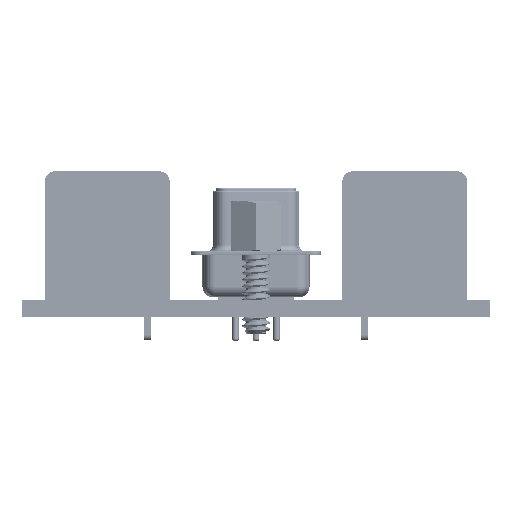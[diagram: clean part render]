
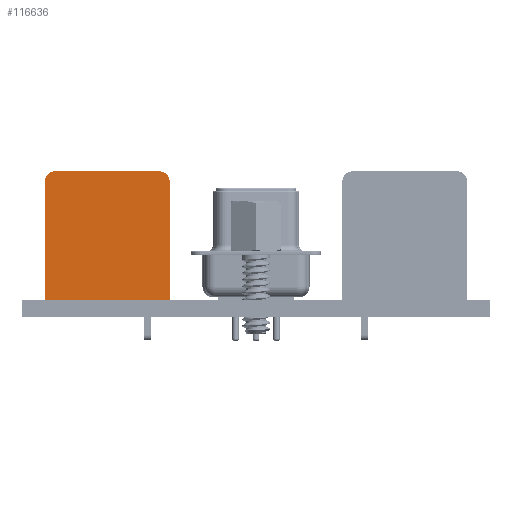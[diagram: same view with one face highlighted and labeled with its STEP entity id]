
A CAD part, left-side view. The second image highlights one B-rep face of the part: STEP entity #116636.
In plain terms, the highlighted planar face has unit normal (-1, 0, 0) as drawn and (0, 0, -1) by its records, which use the part's own axes.
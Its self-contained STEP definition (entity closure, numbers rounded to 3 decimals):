
#116636 = ADVANCED_FACE('',(#116637),#116689,.T.);
#116637 = FACE_BOUND('',#116638,.T.);
#116638 = EDGE_LOOP('',(#116639,#116649,#116657,#116665,#116674,#116682)
  );
#116639 = ORIENTED_EDGE('',*,*,#116640,.T.);
#116640 = EDGE_CURVE('',#116641,#116643,#116645,.T.);
#116641 = VERTEX_POINT('',#116642);
#116642 = CARTESIAN_POINT('',(6.,11.4,-0.463));
#116643 = VERTEX_POINT('',#116644);
#116644 = CARTESIAN_POINT('',(6.,0.,-0.463));
#116645 = LINE('',#116646,#116647);
#116646 = CARTESIAN_POINT('',(6.,11.4,-0.463));
#116647 = VECTOR('',#116648,1.);
#116648 = DIRECTION('',(-0.,-1.,-0.));
#116649 = ORIENTED_EDGE('',*,*,#116650,.T.);
#116650 = EDGE_CURVE('',#116643,#116651,#116653,.T.);
#116651 = VERTEX_POINT('',#116652);
#116652 = CARTESIAN_POINT('',(-6.,0.,-0.463));
#116653 = LINE('',#116654,#116655);
#116654 = CARTESIAN_POINT('',(-5.,0.,-0.463));
#116655 = VECTOR('',#116656,1.);
#116656 = DIRECTION('',(-1.,0.,-0.));
#116657 = ORIENTED_EDGE('',*,*,#116658,.T.);
#116658 = EDGE_CURVE('',#116651,#116659,#116661,.T.);
#116659 = VERTEX_POINT('',#116660);
#116660 = CARTESIAN_POINT('',(-6.,11.4,-0.463));
#116661 = LINE('',#116662,#116663);
#116662 = CARTESIAN_POINT('',(-6.,11.4,-0.463));
#116663 = VECTOR('',#116664,1.);
#116664 = DIRECTION('',(0.,1.,0.));
#116665 = ORIENTED_EDGE('',*,*,#116666,.T.);
#116666 = EDGE_CURVE('',#116659,#116667,#116669,.T.);
#116667 = VERTEX_POINT('',#116668);
#116668 = CARTESIAN_POINT('',(-5.,12.4,-0.463));
#116669 = CIRCLE('',#116670,1.);
#116670 = AXIS2_PLACEMENT_3D('',#116671,#116672,#116673);
#116671 = CARTESIAN_POINT('',(-5.,11.4,-0.463));
#116672 = DIRECTION('',(-0.,0.,-1.));
#116673 = DIRECTION('',(-1.,0.,0.));
#116674 = ORIENTED_EDGE('',*,*,#116675,.T.);
#116675 = EDGE_CURVE('',#116667,#116676,#116678,.T.);
#116676 = VERTEX_POINT('',#116677);
#116677 = CARTESIAN_POINT('',(5.,12.4,-0.463));
#116678 = LINE('',#116679,#116680);
#116679 = CARTESIAN_POINT('',(-5.,12.4,-0.463));
#116680 = VECTOR('',#116681,1.);
#116681 = DIRECTION('',(1.,-0.,0.));
#116682 = ORIENTED_EDGE('',*,*,#116683,.T.);
#116683 = EDGE_CURVE('',#116676,#116641,#116684,.T.);
#116684 = CIRCLE('',#116685,1.);
#116685 = AXIS2_PLACEMENT_3D('',#116686,#116687,#116688);
#116686 = CARTESIAN_POINT('',(5.,11.4,-0.463));
#116687 = DIRECTION('',(-0.,0.,-1.));
#116688 = DIRECTION('',(-1.,0.,0.));
#116689 = PLANE('',#116690);
#116690 = AXIS2_PLACEMENT_3D('',#116691,#116692,#116693);
#116691 = CARTESIAN_POINT('',(-5.,11.4,-0.463));
#116692 = DIRECTION('',(0.,0.,-1.));
#116693 = DIRECTION('',(-1.,0.,-0.));
